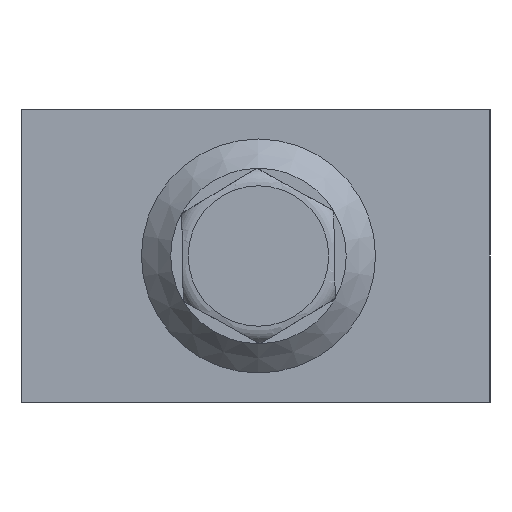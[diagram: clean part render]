
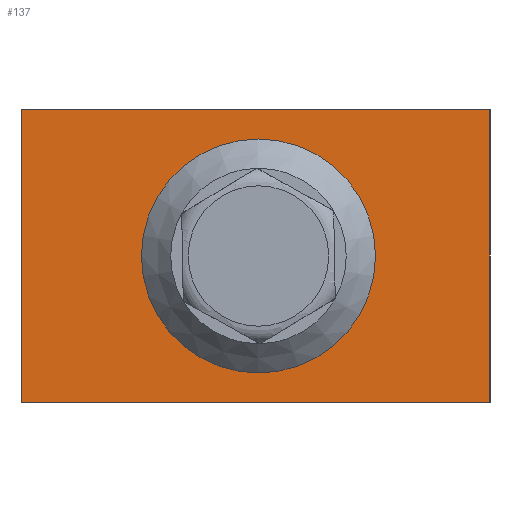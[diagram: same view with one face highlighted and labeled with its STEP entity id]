
A CAD part, left-side view. The second image highlights one B-rep face of the part: STEP entity #137.
In plain terms, the highlighted planar face has unit normal (-1, 0, 0).
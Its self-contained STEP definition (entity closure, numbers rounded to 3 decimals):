
#56=PLANE('',#820);
#93=FACE_BOUND('',#233,.T.);
#94=FACE_BOUND('',#234,.T.);
#137=ADVANCED_FACE('',(#93,#94),#56,.F.);
#233=EDGE_LOOP('',(#406));
#234=EDGE_LOOP('',(#407,#408,#409,#410));
#351=CIRCLE('',#819,20.);
#406=ORIENTED_EDGE('',*,*,#681,.F.);
#407=ORIENTED_EDGE('',*,*,#676,.T.);
#408=ORIENTED_EDGE('',*,*,#682,.F.);
#409=ORIENTED_EDGE('',*,*,#668,.F.);
#410=ORIENTED_EDGE('',*,*,#683,.T.);
#592=VERTEX_POINT('',#2644);
#593=VERTEX_POINT('',#2645);
#600=VERTEX_POINT('',#2661);
#601=VERTEX_POINT('',#2662);
#605=VERTEX_POINT('',#2672);
#668=EDGE_CURVE('',#592,#593,#750,.T.);
#676=EDGE_CURVE('',#600,#601,#754,.T.);
#681=EDGE_CURVE('',#605,#605,#351,.T.);
#682=EDGE_CURVE('',#593,#601,#758,.T.);
#683=EDGE_CURVE('',#592,#600,#759,.T.);
#750=LINE('',#2643,#777);
#754=LINE('',#2660,#781);
#758=LINE('',#2673,#785);
#759=LINE('',#2674,#786);
#777=VECTOR('',#899,1.);
#781=VECTOR('',#913,1.);
#785=VECTOR('',#923,1.);
#786=VECTOR('',#924,1.);
#819=AXIS2_PLACEMENT_3D('',#2671,#921,#922);
#820=AXIS2_PLACEMENT_3D('',#2675,#925,#926);
#899=DIRECTION('',(0.,-1.,0.));
#913=DIRECTION('',(0.,-1.,0.));
#921=DIRECTION('',(-1.,0.,0.));
#922=DIRECTION('',(0.,-1.,0.));
#923=DIRECTION('',(0.,0.,-1.));
#924=DIRECTION('',(0.,0.,-1.));
#925=DIRECTION('',(1.,0.,0.));
#926=DIRECTION('',(0.,0.,-1.));
#2643=CARTESIAN_POINT('',(-60.,40.,50.));
#2644=CARTESIAN_POINT('',(-60.,40.,50.));
#2645=CARTESIAN_POINT('',(-60.,-40.,50.));
#2660=CARTESIAN_POINT('',(-60.,40.,0.));
#2661=CARTESIAN_POINT('',(-60.,40.,0.));
#2662=CARTESIAN_POINT('',(-60.,-40.,0.));
#2671=CARTESIAN_POINT('',(-60.,-0.421,25.));
#2672=CARTESIAN_POINT('',(-60.,-20.421,25.));
#2673=CARTESIAN_POINT('',(-60.,-40.,50.));
#2674=CARTESIAN_POINT('',(-60.,40.,50.));
#2675=CARTESIAN_POINT('',(-60.,40.,50.));
